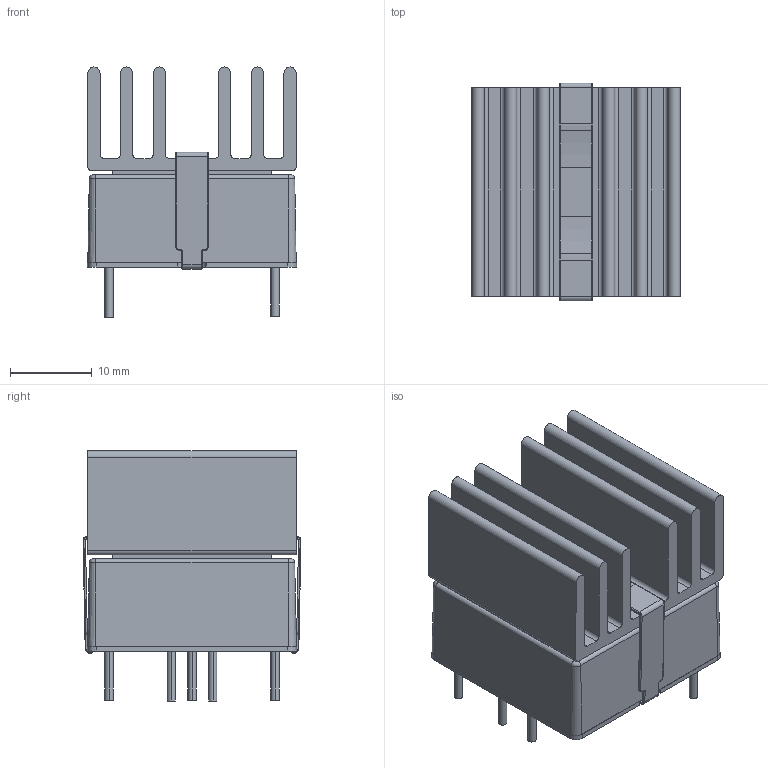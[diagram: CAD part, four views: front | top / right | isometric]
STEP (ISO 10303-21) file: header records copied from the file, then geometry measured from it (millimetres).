
FILE_DESCRIPTION (( 'STEP AP203' ), '1' );
FILE_NAME ('MJWI40S 3D+HS.STEP', '2024-10-22T07:51:14', ( '' ), ( '' ), 'SwSTEP 2.0', 'SolidWorks 2021', '' );
FILE_SCHEMA (( 'CONFIG_CONTROL_DESIGN' ));
Length unit declared in the file: millimetre
Products named in the file (3): MJWI40 3D(113.9.12)_MJWI40+HS; MJWI40S(D) 3D EC NOTE _MJWI40+HS; MJWI40S 3D+HS
Assembly tree (2 placements, depth 2):
  MJWI40S 3D+HS
    MJWI40S(D) 3D EC NOTE _MJWI40+HS
    MJWI40 3D(113.9.12)_MJWI40+HS
Bounding box: 25.6 x 26.67 x 30.6 mm (x, y, z)
Volume: 11415.2 mm3; surface area: 10077.3 mm2
Topology: 5 solids, 5 shells, 243 faces, 612 edges, 386 vertices
Faces by surface type: cylinder 112, plane 91, torus 22, bspline 8, sphere 6, cone 4
Entity records: 7687 total; most frequent: CARTESIAN_POINT 1442, DIRECTION 1310, ORIENTED_EDGE 1224, EDGE_CURVE 612, AXIS2_PLACEMENT_3D 486, VERTEX_POINT 386, VECTOR 338, LINE 338
